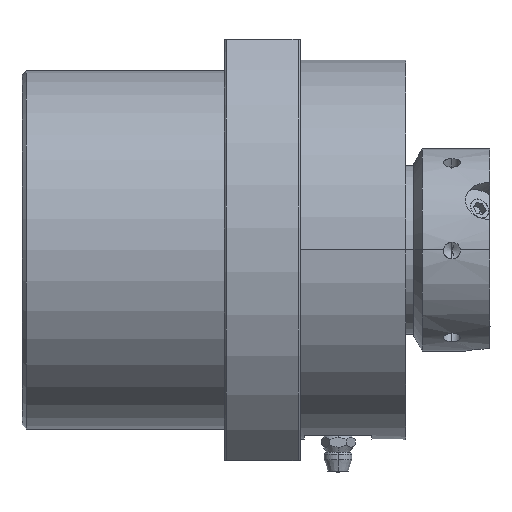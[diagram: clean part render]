
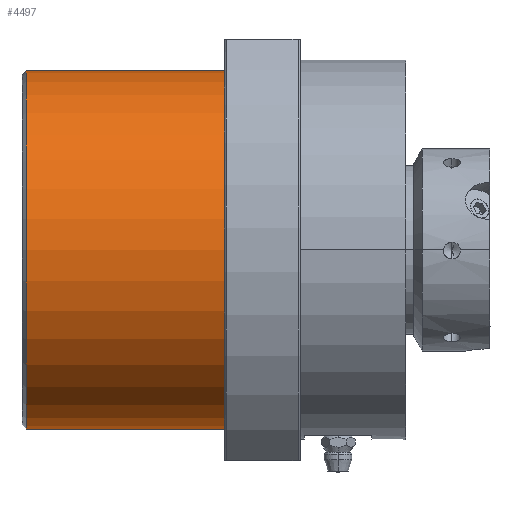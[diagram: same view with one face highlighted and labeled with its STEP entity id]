
A CAD part, front view. The second image highlights one B-rep face of the part: STEP entity #4497.
In plain terms, the highlighted cylindrical face has radius 42.5 mm (diameter 85 mm), a partial arc.
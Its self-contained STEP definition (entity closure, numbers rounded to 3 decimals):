
#374 = EDGE_CURVE ( 'NONE', #10303, #7150, #22881, .T. ) ;
#498 = ORIENTED_EDGE ( 'NONE', *, *, #374, .F. ) ;
#950 = CARTESIAN_POINT ( 'NONE',  ( -14., 0., -42.5 ) ) ;
#1918 = EDGE_LOOP ( 'NONE', ( #498, #9712, #7686, #18567 ) ) ;
#3373 = EDGE_CURVE ( 'NONE', #7876, #22310, #19719, .T. ) ;
#3593 = CARTESIAN_POINT ( 'NONE',  ( -14., 0., 0. ) ) ;
#3884 = AXIS2_PLACEMENT_3D ( 'NONE', #23514, #13873, #17601 ) ;
#4497 = ADVANCED_FACE ( 'NONE', ( #5812 ), #16913, .T. ) ;
#4612 = AXIS2_PLACEMENT_3D ( 'NONE', #3593, #17329, #7328 ) ;
#4632 = VECTOR ( 'NONE', #15426, 1000. ) ;
#4753 = CARTESIAN_POINT ( 'NONE',  ( 53.25, 0., 0. ) ) ;
#5812 = FACE_OUTER_BOUND ( 'NONE', #1918, .T. ) ;
#5985 = EDGE_CURVE ( 'NONE', #7150, #22310, #15608, .T. ) ;
#7071 = CARTESIAN_POINT ( 'NONE',  ( 33., 0., 42.5 ) ) ;
#7150 = VERTEX_POINT ( 'NONE', #7071 ) ;
#7328 = DIRECTION ( 'NONE',  ( 0., 0., -1. ) ) ;
#7686 = ORIENTED_EDGE ( 'NONE', *, *, #3373, .T. ) ;
#7876 = VERTEX_POINT ( 'NONE', #950 ) ;
#8506 = CARTESIAN_POINT ( 'NONE',  ( 53.25, 0., 42.5 ) ) ;
#9712 = ORIENTED_EDGE ( 'NONE', *, *, #17021, .T. ) ;
#10303 = VERTEX_POINT ( 'NONE', #20578 ) ;
#12403 = VECTOR ( 'NONE', #25035, 1000. ) ;
#12670 = DIRECTION ( 'NONE',  ( 0., 0., -1. ) ) ;
#13873 = DIRECTION ( 'NONE',  ( 1., 0., 0. ) ) ;
#14458 = CARTESIAN_POINT ( 'NONE',  ( 33., 0., -42.5 ) ) ;
#15426 = DIRECTION ( 'NONE',  ( 1., 0., 0. ) ) ;
#15608 = CIRCLE ( 'NONE', #3884, 42.5 ) ;
#16141 = AXIS2_PLACEMENT_3D ( 'NONE', #4753, #22651, #12670 ) ;
#16913 = CYLINDRICAL_SURFACE ( 'NONE', #16141, 42.5 ) ;
#17021 = EDGE_CURVE ( 'NONE', #10303, #7876, #20414, .T. ) ;
#17329 = DIRECTION ( 'NONE',  ( 1., 0., 0. ) ) ;
#17601 = DIRECTION ( 'NONE',  ( 0., 0., -1. ) ) ;
#18567 = ORIENTED_EDGE ( 'NONE', *, *, #5985, .F. ) ;
#19719 = LINE ( 'NONE', #21456, #4632 ) ;
#20414 = CIRCLE ( 'NONE', #4612, 42.5 ) ;
#20578 = CARTESIAN_POINT ( 'NONE',  ( -14., 0., 42.5 ) ) ;
#21456 = CARTESIAN_POINT ( 'NONE',  ( 53.25, 0., -42.5 ) ) ;
#22310 = VERTEX_POINT ( 'NONE', #14458 ) ;
#22651 = DIRECTION ( 'NONE',  ( 1., 0., 0. ) ) ;
#22881 = LINE ( 'NONE', #8506, #12403 ) ;
#23514 = CARTESIAN_POINT ( 'NONE',  ( 33., 0., 0. ) ) ;
#25035 = DIRECTION ( 'NONE',  ( 1., 0., 0. ) ) ;
